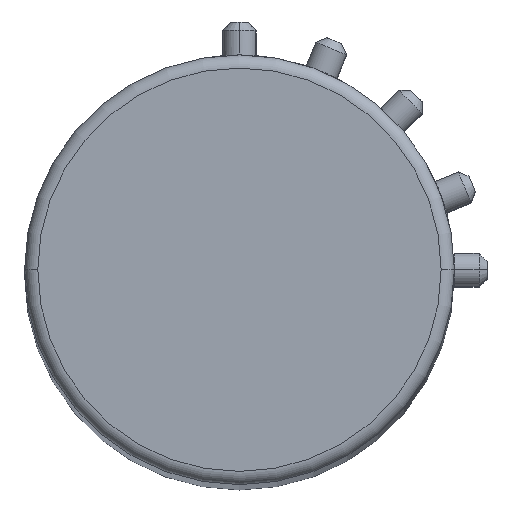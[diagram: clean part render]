
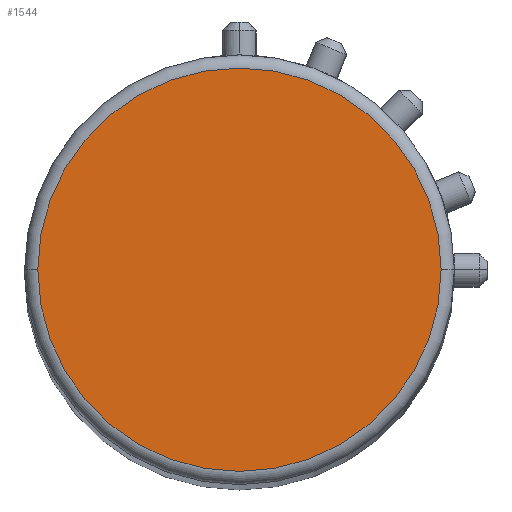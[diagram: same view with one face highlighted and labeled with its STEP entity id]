
A CAD part, top view. The second image highlights one B-rep face of the part: STEP entity #1544.
In plain terms, the highlighted planar face has unit normal (0, 0, 1).
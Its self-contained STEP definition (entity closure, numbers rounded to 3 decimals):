
#106 = CIRCLE ( 'NONE', #3440, 12.2 ) ;
#334 = AXIS2_PLACEMENT_3D ( 'NONE', #3397, #2769, #2467 ) ;
#466 = AXIS2_PLACEMENT_3D ( 'NONE', #1697, #3594, #1309 ) ;
#756 = CARTESIAN_POINT ( 'NONE',  ( 0., 0., 210. ) ) ;
#1201 = CARTESIAN_POINT ( 'NONE',  ( 12.2, 0., 210. ) ) ;
#1309 = DIRECTION ( 'NONE',  ( 1., 0., 0. ) ) ;
#1341 = DIRECTION ( 'NONE',  ( 0., 0., 1. ) ) ;
#1382 = ORIENTED_EDGE ( 'NONE', *, *, #2775, .T. ) ;
#1544 = ADVANCED_FACE ( 'NONE', ( #2438 ), #2278, .T. ) ;
#1582 = EDGE_LOOP ( 'NONE', ( #1382, #1943 ) ) ;
#1697 = CARTESIAN_POINT ( 'NONE',  ( 0., 0., 210. ) ) ;
#1943 = ORIENTED_EDGE ( 'NONE', *, *, #3327, .T. ) ;
#1956 = CIRCLE ( 'NONE', #334, 12.2 ) ;
#2278 = PLANE ( 'NONE',  #466 ) ;
#2343 = VERTEX_POINT ( 'NONE', #3665 ) ;
#2438 = FACE_OUTER_BOUND ( 'NONE', #1582, .T. ) ;
#2467 = DIRECTION ( 'NONE',  ( 1., 0., 0. ) ) ;
#2750 = VERTEX_POINT ( 'NONE', #1201 ) ;
#2769 = DIRECTION ( 'NONE',  ( 0., 0., 1. ) ) ;
#2775 = EDGE_CURVE ( 'NONE', #2750, #2343, #1956, .T. ) ;
#3327 = EDGE_CURVE ( 'NONE', #2343, #2750, #106, .T. ) ;
#3334 = DIRECTION ( 'NONE',  ( 1., 0., 0. ) ) ;
#3397 = CARTESIAN_POINT ( 'NONE',  ( 0., 0., 210. ) ) ;
#3440 = AXIS2_PLACEMENT_3D ( 'NONE', #756, #1341, #3334 ) ;
#3594 = DIRECTION ( 'NONE',  ( 0., 0., 1. ) ) ;
#3665 = CARTESIAN_POINT ( 'NONE',  ( -12.2, 0., 210. ) ) ;
